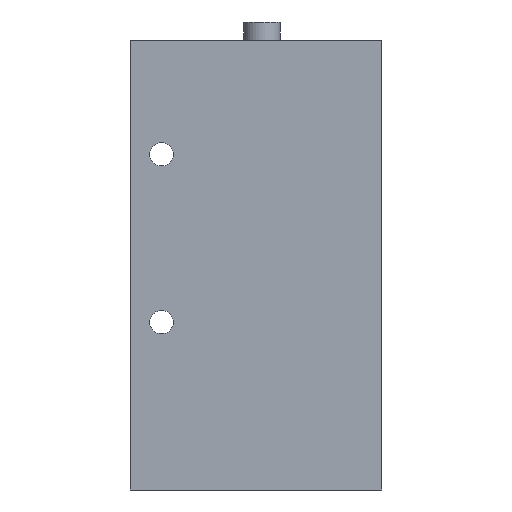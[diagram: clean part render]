
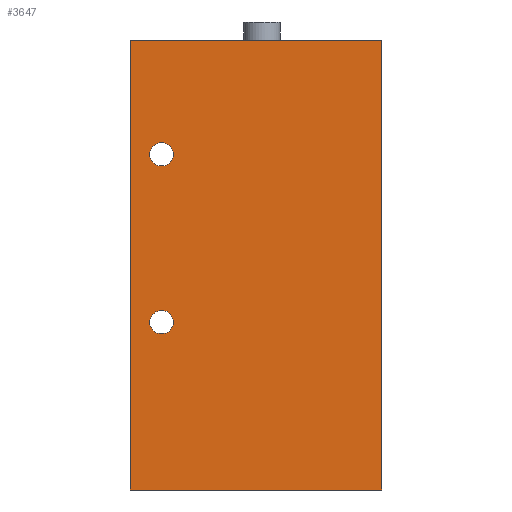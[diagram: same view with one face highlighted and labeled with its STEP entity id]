
A CAD part, front view. The second image highlights one B-rep face of the part: STEP entity #3647.
In plain terms, the highlighted planar face has unit normal (0, -1, 0).
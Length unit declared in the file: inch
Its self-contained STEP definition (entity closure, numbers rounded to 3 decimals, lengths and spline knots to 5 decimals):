
#181=CIRCLE('',#3863,0.14);
#183=CIRCLE('',#3866,0.14);
#399=FACE_BOUND('',#1001,.T.);
#400=FACE_BOUND('',#1002,.T.);
#401=FACE_BOUND('',#1003,.T.);
#1001=EDGE_LOOP('',(#2978));
#1002=EDGE_LOOP('',(#2979));
#1003=EDGE_LOOP('',(#2980,#2981,#2982,#2983));
#1341=LINE('',#6072,#1565);
#1343=LINE('',#6168,#1567);
#1347=LINE('',#6406,#1571);
#1349=LINE('',#6428,#1573);
#1565=VECTOR('',#4445,5.3498);
#1567=VECTOR('',#4521,5.3498);
#1571=VECTOR('',#4607,3.);
#1573=VECTOR('',#4635,3.);
#1758=VERTEX_POINT('',#6065);
#1761=VERTEX_POINT('',#6070);
#1783=VERTEX_POINT('',#6165);
#1784=VERTEX_POINT('',#6167);
#1796=VERTEX_POINT('',#6330);
#1798=VERTEX_POINT('',#6335);
#2168=EDGE_CURVE('',#1761,#1758,#1341,.T.);
#2190=EDGE_CURVE('',#1784,#1783,#1343,.T.);
#2205=EDGE_CURVE('',#1796,#1796,#181,.T.);
#2207=EDGE_CURVE('',#1798,#1798,#183,.T.);
#2221=EDGE_CURVE('',#1784,#1761,#1347,.T.);
#2230=EDGE_CURVE('',#1783,#1758,#1349,.T.);
#2978=ORIENTED_EDGE('',*,*,#2205,.T.);
#2979=ORIENTED_EDGE('',*,*,#2207,.T.);
#2980=ORIENTED_EDGE('',*,*,#2230,.T.);
#2981=ORIENTED_EDGE('',*,*,#2168,.F.);
#2982=ORIENTED_EDGE('',*,*,#2221,.F.);
#2983=ORIENTED_EDGE('',*,*,#2190,.T.);
#3300=PLANE('',#3934);
#3647=ADVANCED_FACE('',(#399,#400,#401),#3300,.T.);
#3863=AXIS2_PLACEMENT_3D('',#6331,#4554,#4555);
#3866=AXIS2_PLACEMENT_3D('',#6336,#4560,#4561);
#3934=AXIS2_PLACEMENT_3D('',#6475,#4700,#4701);
#4445=DIRECTION('',(0.,0.,1.));
#4521=DIRECTION('',(0.,0.,1.));
#4554=DIRECTION('center_axis',(0.,1.,0.));
#4555=DIRECTION('ref_axis',(1.,0.,0.));
#4560=DIRECTION('center_axis',(0.,1.,0.));
#4561=DIRECTION('ref_axis',(1.,0.,0.));
#4607=DIRECTION('',(-1.,0.,0.));
#4635=DIRECTION('',(-1.,0.,0.));
#4700=DIRECTION('center_axis',(0.,-1.,0.));
#4701=DIRECTION('ref_axis',(0.,0.,-1.));
#6065=CARTESIAN_POINT('',(-1.57,-1.,5.3498));
#6070=CARTESIAN_POINT('',(-1.57,-1.,0.));
#6072=CARTESIAN_POINT('',(-1.57,-1.,0.));
#6165=CARTESIAN_POINT('',(1.43,-1.,5.3498));
#6167=CARTESIAN_POINT('',(1.43,-1.,0.));
#6168=CARTESIAN_POINT('',(1.43,-1.,0.));
#6330=CARTESIAN_POINT('',(-1.055,-1.,4.));
#6331=CARTESIAN_POINT('Origin',(-1.195,-1.,4.));
#6335=CARTESIAN_POINT('',(-1.055,-1.,2.));
#6336=CARTESIAN_POINT('Origin',(-1.195,-1.,2.));
#6406=CARTESIAN_POINT('',(1.43,-1.,0.));
#6428=CARTESIAN_POINT('',(1.43,-1.,5.3498));
#6475=CARTESIAN_POINT('Origin',(1.43,-1.,0.));
